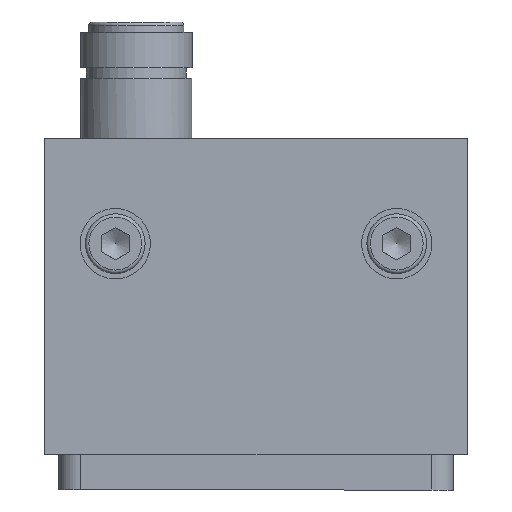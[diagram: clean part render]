
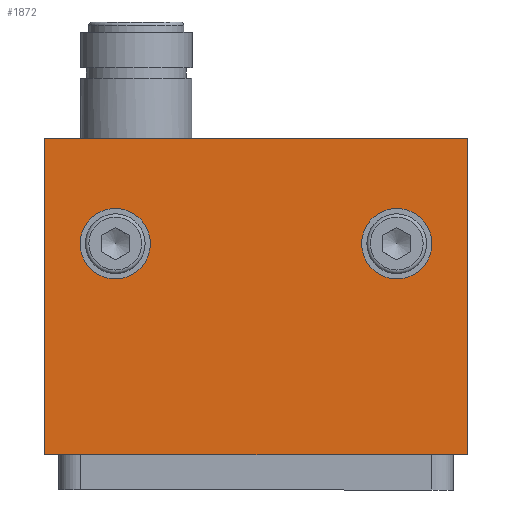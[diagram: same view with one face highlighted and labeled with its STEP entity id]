
A CAD part, front view. The second image highlights one B-rep face of the part: STEP entity #1872.
In plain terms, the highlighted planar face has unit normal (0, -1, 0).
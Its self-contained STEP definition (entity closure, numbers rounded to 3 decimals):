
#107=FACE_BOUND('',#362,.T.);
#108=FACE_BOUND('',#363,.T.);
#140=PLANE('',#2173);
#239=FACE_OUTER_BOUND('',#361,.T.);
#361=EDGE_LOOP('',(#1391,#1392,#1393,#1394));
#362=EDGE_LOOP('',(#1395));
#363=EDGE_LOOP('',(#1396));
#518=LINE('',#3082,#657);
#520=LINE('',#3086,#659);
#521=LINE('',#3088,#660);
#522=LINE('',#3089,#661);
#657=VECTOR('',#2478,10.);
#659=VECTOR('',#2482,10.);
#660=VECTOR('',#2483,10.);
#661=VECTOR('',#2484,10.);
#772=CIRCLE('',#2166,2.75);
#773=CIRCLE('',#2168,2.75);
#887=VERTEX_POINT('',#3056);
#888=VERTEX_POINT('',#3060);
#894=VERTEX_POINT('',#3079);
#895=VERTEX_POINT('',#3081);
#896=VERTEX_POINT('',#3085);
#897=VERTEX_POINT('',#3087);
#1077=EDGE_CURVE('',#887,#887,#772,.T.);
#1079=EDGE_CURVE('',#888,#888,#773,.T.);
#1089=EDGE_CURVE('',#895,#894,#518,.T.);
#1091=EDGE_CURVE('',#894,#896,#520,.T.);
#1092=EDGE_CURVE('',#897,#896,#521,.T.);
#1093=EDGE_CURVE('',#897,#895,#522,.T.);
#1391=ORIENTED_EDGE('',*,*,#1091,.T.);
#1392=ORIENTED_EDGE('',*,*,#1092,.F.);
#1393=ORIENTED_EDGE('',*,*,#1093,.T.);
#1394=ORIENTED_EDGE('',*,*,#1089,.T.);
#1395=ORIENTED_EDGE('',*,*,#1077,.T.);
#1396=ORIENTED_EDGE('',*,*,#1079,.T.);
#1872=ADVANCED_FACE('',(#239,#107,#108),#140,.T.);
#2166=AXIS2_PLACEMENT_3D('',#3057,#2454,#2455);
#2168=AXIS2_PLACEMENT_3D('',#3061,#2459,#2460);
#2173=AXIS2_PLACEMENT_3D('',#3084,#2480,#2481);
#2454=DIRECTION('center_axis',(0.,1.,0.));
#2455=DIRECTION('ref_axis',(1.,0.,0.));
#2459=DIRECTION('center_axis',(0.,1.,0.));
#2460=DIRECTION('ref_axis',(1.,0.,0.));
#2478=DIRECTION('',(0.,0.,-1.));
#2480=DIRECTION('center_axis',(0.,-1.,0.));
#2481=DIRECTION('ref_axis',(0.,0.,-1.));
#2482=DIRECTION('',(1.,0.,0.));
#2483=DIRECTION('',(0.,0.,-1.));
#2484=DIRECTION('',(-1.,0.,0.));
#3056=CARTESIAN_POINT('',(17.25,-40.,-15.));
#3057=CARTESIAN_POINT('Origin',(20.,-40.,-15.));
#3060=CARTESIAN_POINT('',(-22.75,-40.,-15.));
#3061=CARTESIAN_POINT('Origin',(-20.,-40.,-15.));
#3079=CARTESIAN_POINT('',(-30.,-40.,-45.));
#3081=CARTESIAN_POINT('',(-30.,-40.,0.));
#3082=CARTESIAN_POINT('',(-30.,-40.,0.));
#3084=CARTESIAN_POINT('Origin',(-30.,-40.,0.));
#3085=CARTESIAN_POINT('',(30.,-40.,-45.));
#3086=CARTESIAN_POINT('',(30.,-40.,-45.));
#3087=CARTESIAN_POINT('',(30.,-40.,0.));
#3088=CARTESIAN_POINT('',(30.,-40.,0.));
#3089=CARTESIAN_POINT('',(30.,-40.,0.));
